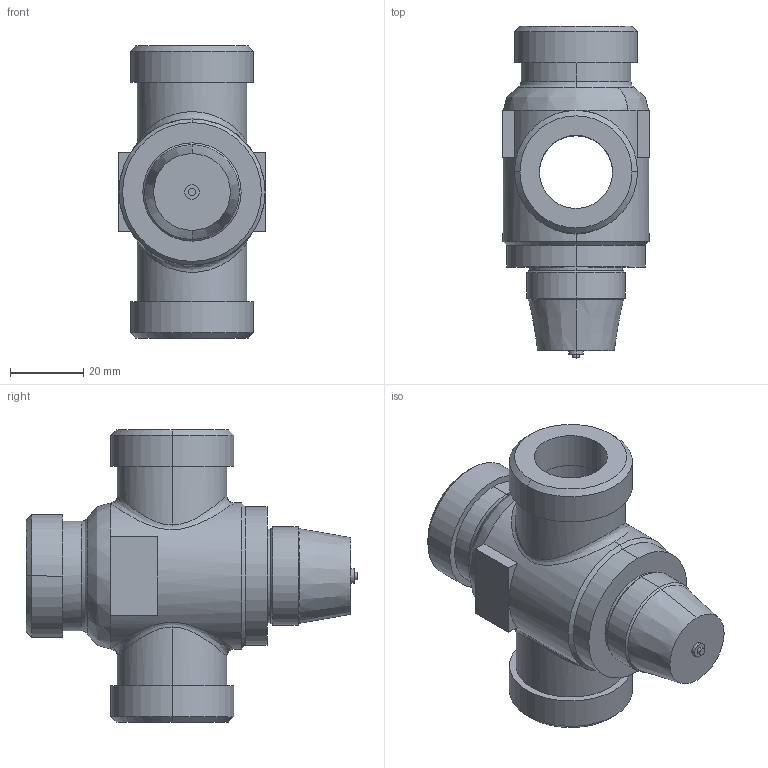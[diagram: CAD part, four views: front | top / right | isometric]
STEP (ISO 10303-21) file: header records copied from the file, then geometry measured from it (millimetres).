
FILE_DESCRIPTION((''),'2;1');
FILE_NAME('000372.dwg.stp','2006-10-04T11:28:54',(''),(''),'Mechanical Desktop 2006','Mechanical Desktop 2006',', , ');
FILE_SCHEMA(('AUTOMOTIVE_DESIGN { 1 2 10303 214 0 1 1 1 }'));
Length unit declared in the file: millimetre
Products named in the file (1): Product
Bounding box: 40.27 x 90.9 x 80 mm (x, y, z)
Volume: 84466.4 mm3; surface area: 28346.3 mm2
Topology: 9 solids, 9 shells, 87 faces, 188 edges, 118 vertices
Faces by surface type: cylinder 31, plane 25, bspline 17, cone 14
Entity records: 3403 total; most frequent: CARTESIAN_POINT 1436, DIRECTION 416, ORIENTED_EDGE 376, EDGE_CURVE 188, AXIS2_PLACEMENT_3D 173, VERTEX_POINT 118, CIRCLE 98, EDGE_LOOP 96
